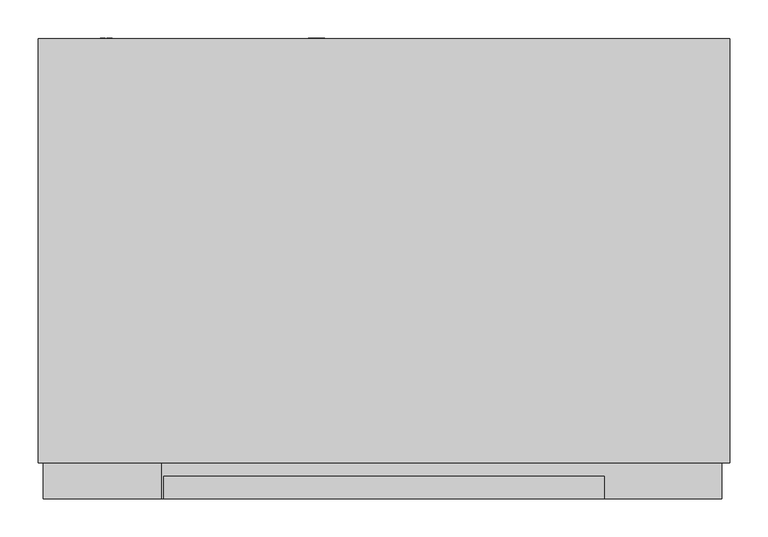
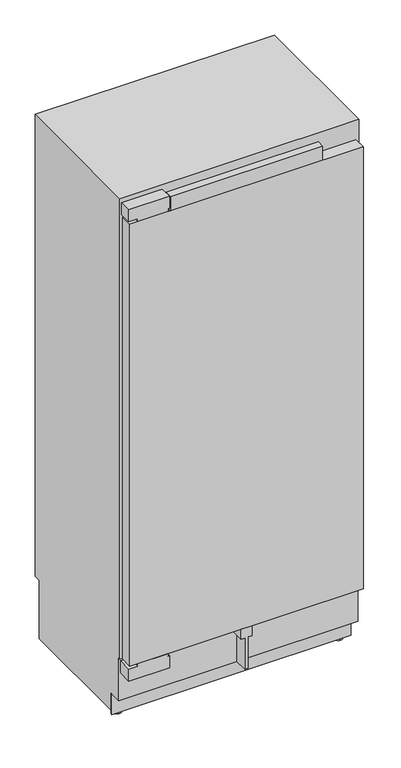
"""IFC4 building model written with IfcOpenShell, lengths in millimetres: proxy geometry, 11503390_USA_F2912Vi : 37291201_USA_11503390_F2912Vi."""

from ifc_helpers import new_model, si_unit, point, frame, frame_2d, origin, place, context, project, spatial, polyline, circle_curve, trimmed, segment, composite_curve, outline, extrude, source, transform, mapped, element, save
from ifc_brep_helpers import plane_surface, cylinder_surface, advanced_brep


def specialty_equipment_1636ad30(model_context):
    return source(origin(), model_context, "Body", "SolidModel", [
        extrude(outline(polyline([(-443.0, 47.0), (443.0, 47.0), (443.0, 0.0), (-443.0, 0.0), (-443.0, 47.0)])), frame((0.0, 0.0, 265.0), z_axis=(0.0, 0.0, 1.0), x_axis=(1.0, 0.0, 0.0)), (0.0, 0.0, 1.0), 1771.0),
        extrude(outline(polyline([(-289.0, 29.0), (289.0, 29.0), (289.0, 0.0), (-289.0, 0.0), (-289.0, 29.0)])), frame((0.0, 0.0, 2036.0), z_axis=(0.0, 0.0, 1.0), x_axis=(1.0, 0.0, 0.0)), (0.0, 0.0, 1.0), 56.0),
        extrude(outline(polyline([(265.0, 21.0), (265.0, 0.0), (265.0, -21.0), (224.0, -21.0), (224.0, -6.5), (99.0, -6.5), (99.0, 0.0), (99.0, 6.5), (224.0, 6.5), (224.0, 21.0), (265.0, 21.0)])), frame((0.0, 0.0, 0.0), z_axis=(0.0, 1.0, 0.0), x_axis=(0.0, 0.0, 1.0)), (0.0, 0.0, 1.0), 54.0),
        extrude(outline(polyline([(519.0, 1998.0), (519.0, 1791.0), (450.0, 1791.0), (422.0, 1867.0), (201.7448904, 1867.0), (157.0, 1939.0), (87.0, 1949.0), (87.0, 1998.0), (519.0, 1998.0)])), frame((-408.0, 0.0, 0.0), z_axis=(1.0, 0.0, 0.0), x_axis=(0.0, 1.0, 0.0)), (0.0, 0.0, 1.0), 816.0),
        extrude(outline(polyline([(196.9886114, 1875.0), (195.809433, 1875.0), (158.6921935, 1934.4), (159.8713719, 1934.4), (196.9886114, 1875.0)])), frame((-69.0, 0.0, 0.0), z_axis=(1.0, 0.0, 0.0), x_axis=(0.0, 1.0, 0.0)), (0.0, 0.0, 1.0), 138.0),
        extrude(outline(polyline([(46.0510837, -87.101717), (37.4134902, -89.1745179), (46.0453554, -91.6868463), (46.0453554, -93.5601414), (37.4089549, -96.0799633), (46.0493903, -98.1581876), (46.0493903, -99.4649805), (36.0005458, -96.7156324), (36.0005458, -95.372208), (44.8261022, -92.6342221), (35.9987467, -90.0620509), (35.9987287, -88.5451466), (46.0510837, -85.800191), (46.0510837, -87.101717)])), frame((0.0, 604.0, 0.0), z_axis=(0.0, 1.0, 0.0), x_axis=(0.0, 0.0, 1.0)), (0.0, 0.0, 1.0), 1.0),
        extrude(outline(polyline([(46.0485238, -78.7401503), (41.1363122, -78.7401503), (46.0468162, -83.884602), (46.0468162, -85.6328316), (41.9156889, -81.3260313), (36.000035, -85.8032231), (36.000035, -84.2795519), (41.0742849, -80.4391666), (39.4525334, -78.7395503), (35.9999292, -78.7395503), (35.9999292, -77.4795491), (46.0485238, -77.4795491), (46.0485238, -78.7401503)])), frame((0.0, 604.0, 0.0), z_axis=(0.0, 1.0, 0.0), x_axis=(0.0, 0.0, 1.0)), (0.0, 0.0, 1.0), 1.0),
        extrude(outline(composite_curve([segment(trimmed(circle_curve(frame_2d((41.0, -88.0)), 7.5), [point((33.5, -88.0))], [point((48.5, -88.0))], False, "CARTESIAN"), True, "CONTINUOUS"), segment(trimmed(circle_curve(frame_2d((41.0, -88.0)), 7.5), [point((48.5, -88.0))], [point((33.5, -88.0))], False, "CARTESIAN"), True, "CONTINUOUS")], self_intersect=False)), frame((0.0, 577.0, 0.0), z_axis=(0.0, 1.0, 0.0), x_axis=(0.0, 0.0, 1.0)), (0.0, 0.0, 1.0), 27.0),
        extrude(outline(polyline([(2095.0, -447.5), (2047.0, -447.5), (2047.0, -413.5), (2036.5, -413.5), (2036.5, -298.5), (2047.0, -298.5), (2047.0, -292.5), (2095.0, -292.5), (2095.0, -447.5)])), frame((0.0, 0.0, 0.0), z_axis=(0.0, 1.0, 0.0), x_axis=(0.0, 0.0, 1.0)), (0.0, 0.0, 1.0), 47.0),
        extrude(outline(polyline([(254.0, -447.5), (206.0, -447.5), (206.0, -292.5), (254.0, -292.5), (254.0, -298.5), (264.0, -298.5), (264.0, -413.5), (254.0, -413.5), (254.0, -447.5)])), frame((0.0, 0.0, 0.0), z_axis=(0.0, 1.0, 0.0), x_axis=(0.0, 0.0, 1.0)), (0.0, 0.0, 1.0), 54.0),
        extrude(outline(polyline([(99.0373308, -363.7645771), (97.7615342, -363.7645771), (97.7615342, -357.8195541), (94.7968516, -357.8195541), (94.7968516, -363.469579), (93.5246295, -363.469579), (93.5246295, -357.8415693), (90.2570046, -357.8415693), (90.2570046, -363.9619689), (88.9546219, -363.9619689), (88.9546219, -356.5443524), (99.0373308, -356.5443524), (99.0373308, -363.7645771)])), frame((0.0, 604.0, 0.0), z_axis=(0.0, 1.0, 0.0), x_axis=(0.0, 0.0, 1.0)), (0.0, 0.0, 1.0), 1.0),
        extrude(outline(polyline([(99.0458, -367.0619704), (90.2663944, -367.0619704), (90.2663944, -372.1145879), (89.0134802, -372.1145879), (89.0134802, -365.8423809), (99.0458, -365.8423809), (99.0458, -367.0619704)])), frame((0.0, 604.0, 0.0), z_axis=(0.0, 1.0, 0.0), x_axis=(0.0, 0.0, 1.0)), (0.0, 0.0, 1.0), 1.0),
        extrude(outline(composite_curve([segment(trimmed(circle_curve(frame_2d((94.0, -364.0)), 7.5), [point((86.5, -364.0))], [point((101.5, -364.0))], False, "CARTESIAN"), True, "CONTINUOUS"), segment(trimmed(circle_curve(frame_2d((94.0, -364.0)), 7.5), [point((101.5, -364.0))], [point((86.5, -364.0))], False, "CARTESIAN"), True, "CONTINUOUS")], self_intersect=False)), frame((0.0, 577.0, 0.0), z_axis=(0.0, 1.0, 0.0), x_axis=(0.0, 0.0, 1.0)), (0.0, 0.0, 1.0), 27.0),
        extrude(outline(polyline([(-454.0, 104.0), (454.0, 104.0), (454.0, 99.0), (-454.0, 99.0), (-454.0, 104.0)])), frame((0.0, 0.0, 14.0), z_axis=(0.0, 0.0, 1.0), x_axis=(1.0, 0.0, 0.0)), (0.0, 0.0, 1.0), 83.0),
        advanced_brep(
        [(-420.0, 139.0, 0.0), (-420.0, 109.0, 0.0), (-420.0, 139.0, 7.0), (-420.0, 109.0, 7.0), (-420.0, 128.7, 7.0), (-420.0, 119.3, 7.0), (-420.0, 128.7, 28.0), (-420.0, 119.3, 28.0)],
        [
            (0, 1, circle_curve(frame((-420.0, 124.0, 0.0), z_axis=(0.0, 0.0, -1.0), x_axis=(1.0, 0.0, 0.0)), 15.0)),
            (1, 0, circle_curve(frame((-420.0, 124.0, 0.0), z_axis=(0.0, 0.0, -1.0), x_axis=(1.0, 0.0, 0.0)), 15.0)),
            (2, 3, circle_curve(frame((-420.0, 124.0, 7.0), z_axis=(0.0, 0.0, 1.0), x_axis=(1.0, 0.0, 0.0)), 15.0)),
            (3, 2, circle_curve(frame((-420.0, 124.0, 7.0), z_axis=(0.0, 0.0, 1.0), x_axis=(1.0, 0.0, 0.0)), 15.0)),
            (4, 5, circle_curve(frame((-420.0, 124.0, 7.0), z_axis=(0.0, 0.0, -1.0), x_axis=(0.0, -1.0, 0.0)), 4.7)),
            (5, 4, circle_curve(frame((-420.0, 124.0, 7.0), z_axis=(0.0, 0.0, -1.0), x_axis=(0.0, -1.0, 0.0)), 4.7)),
            (0, 2),
            (3, 1),
            (6, 7, circle_curve(frame((-420.0, 124.0, 28.0), z_axis=(0.0, 0.0, 1.0), x_axis=(0.0, -1.0, 0.0)), 4.7)),
            (7, 6, circle_curve(frame((-420.0, 124.0, 28.0), z_axis=(0.0, 0.0, 1.0), x_axis=(0.0, -1.0, 0.0)), 4.7)),
            (7, 5),
            (4, 6),
        ],
        [
            plane_surface(frame((-405.0, 124.0, 0.0), z_axis=(0.0, 0.0, -1.0), x_axis=(0.0, -1.0, 0.0))),
            plane_surface(frame((-405.0, 124.0, 7.0), z_axis=(0.0, 0.0, 1.0), x_axis=(0.0, 1.0, 0.0))),
            cylinder_surface(frame((-420.0, 124.0, 7.0), z_axis=(0.0, 0.0, -1.0), x_axis=(1.0, 0.0, 0.0)), 15.0),
            plane_surface(frame((-420.0, 119.3, 28.0), z_axis=(0.0, 0.0, 1.0), x_axis=(1.0, 0.0, 0.0))),
            cylinder_surface(frame((-420.0, 124.0, 28.0), z_axis=(0.0, 0.0, -1.0), x_axis=(0.0, -1.0, 0.0)), 4.7),
        ],
        [
            (0, [[1, 2]]),
            (1, [[3, 4], [5, 6]]),
            (2, [[-1, 7, -4, 8]]),
            (2, [[-2, -8, -3, -7]]),
            (3, [[9, 10]]),
            (4, [[-10, 11, -5, 12]]),
            (4, [[-9, -12, -6, -11]]),
        ],
    ),
        advanced_brep(
        [(420.0, 139.0, 0.0), (420.0, 109.0, 0.0), (420.0, 139.0, 7.0), (420.0, 109.0, 7.0), (420.0, 128.7, 7.0), (420.0, 119.3, 7.0), (420.0, 128.7, 28.0), (420.0, 119.3, 28.0)],
        [
            (0, 1, circle_curve(frame((420.0, 124.0, 0.0), z_axis=(0.0, 0.0, -1.0), x_axis=(1.0, 0.0, 0.0)), 15.0)),
            (1, 0, circle_curve(frame((420.0, 124.0, 0.0), z_axis=(0.0, 0.0, -1.0), x_axis=(1.0, 0.0, 0.0)), 15.0)),
            (2, 3, circle_curve(frame((420.0, 124.0, 7.0), z_axis=(0.0, 0.0, 1.0), x_axis=(1.0, 0.0, 0.0)), 15.0)),
            (3, 2, circle_curve(frame((420.0, 124.0, 7.0), z_axis=(0.0, 0.0, 1.0), x_axis=(1.0, 0.0, 0.0)), 15.0)),
            (4, 5, circle_curve(frame((420.0, 124.0, 7.0), z_axis=(0.0, 0.0, -1.0), x_axis=(0.0, -1.0, 0.0)), 4.7)),
            (5, 4, circle_curve(frame((420.0, 124.0, 7.0), z_axis=(0.0, 0.0, -1.0), x_axis=(0.0, -1.0, 0.0)), 4.7)),
            (0, 2),
            (3, 1),
            (6, 7, circle_curve(frame((420.0, 124.0, 28.0), z_axis=(0.0, 0.0, 1.0), x_axis=(0.0, -1.0, 0.0)), 4.7)),
            (7, 6, circle_curve(frame((420.0, 124.0, 28.0), z_axis=(0.0, 0.0, 1.0), x_axis=(0.0, -1.0, 0.0)), 4.7)),
            (7, 5),
            (4, 6),
        ],
        [
            plane_surface(frame((-405.0, 124.0, 0.0), z_axis=(0.0, 0.0, -1.0), x_axis=(0.0, -1.0, 0.0))),
            plane_surface(frame((-405.0, 124.0, 7.0), z_axis=(0.0, 0.0, 1.0), x_axis=(0.0, 1.0, 0.0))),
            cylinder_surface(frame((420.0, 124.0, 7.0), z_axis=(0.0, 0.0, -1.0), x_axis=(1.0, 0.0, 0.0)), 15.0),
            plane_surface(frame((-420.0, 119.3, 28.0), z_axis=(0.0, 0.0, 1.0), x_axis=(1.0, 0.0, 0.0))),
            cylinder_surface(frame((420.0, 124.0, 28.0), z_axis=(0.0, 0.0, -1.0), x_axis=(0.0, -1.0, 0.0)), 4.7),
        ],
        [
            (0, [[1, 2]]),
            (1, [[3, 4], [5, 6]]),
            (2, [[-1, 7, -4, 8]]),
            (2, [[-2, -8, -3, -7]]),
            (3, [[9, 10]]),
            (4, [[-10, 11, -5, 12]]),
            (4, [[-9, -12, -6, -11]]),
        ],
    ),
        advanced_brep(
        [(454.0, 47.0, 2114.0), (454.0, 47.0, 267.0), (454.0, 54.0, 267.0), (454.0, 54.0, 97.0), (454.0, 104.0, 97.0), (454.0, 104.0, 28.0), (454.0, 577.0, 28.0), (454.0, 577.0, 263.0), (454.0, 604.0, 263.0), (454.0, 604.0, 2114.0), (-454.0, 47.0, 2114.0), (-454.0, 604.0, 2114.0), (-454.0, 604.0, 263.0), (-454.0, 577.0, 263.0), (-454.0, 577.0, 28.0), (-454.0, 104.0, 28.0), (-454.0, 104.0, 97.0), (-454.0, 54.0, 97.0), (-454.0, 54.0, 267.0), (-454.0, 47.0, 267.0), (394.0, 577.0, 28.0), (394.0, 577.0, 14.0), (-394.0, 577.0, 14.0), (-394.0, 577.0, 28.0), (394.0, 104.0, 14.0), (-394.0, 104.0, 14.0), (-394.0, 104.0, 28.0), (394.0, 104.0, 28.0), (408.0, 47.0, 1998.0), (408.0, 47.0, 343.0), (-408.0, 47.0, 343.0), (-408.0, 47.0, 1998.0), (408.0, 519.0, 1998.0), (-408.0, 519.0, 1998.0), (-408.0, 519.0, 343.0), (408.0, 519.0, 343.0), (-412.5, 202.8193473, 28.0), (-431.5, 202.8193473, 28.0), (-431.5, 153.1806527, 28.0), (-412.5, 153.1806527, 28.0), (-432.0, 525.8193473, 28.0), (-432.0, 476.1806527, 28.0), (-416.0, 476.1806527, 28.0), (-416.0, 525.8193473, 28.0), (431.5, 153.1806527, 28.0), (431.5, 202.8193473, 28.0), (412.5, 202.8193473, 28.0), (412.5, 153.1806527, 28.0), (416.0, 525.8193473, 28.0), (416.0, 476.1806527, 28.0), (432.0, 476.1806527, 28.0), (432.0, 525.8193473, 28.0), (-412.5, 203.0, 25.0), (-412.5, 153.0, 25.0), (-431.5, 153.0, 25.0), (-431.5, 203.0, 25.0), (-412.5, 178.0, 25.0), (-431.5, 178.0, 25.0), (431.5, 178.0, 25.0), (431.5, 153.0, 25.0), (431.5, 203.0, 25.0), (412.5, 203.0, 25.0), (412.5, 153.0, 25.0), (412.5, 178.0, 25.0), (-432.0, 526.0, 25.0), (-432.0, 476.0, 25.0), (-432.0, 501.0, 25.0), (-416.0, 526.0, 25.0), (-416.0, 476.0, 25.0), (-416.0, 501.0, 25.0), (416.0, 526.0, 25.0), (416.0, 476.0, 25.0), (416.0, 501.0, 25.0), (432.0, 526.0, 25.0), (432.0, 476.0, 25.0), (432.0, 501.0, 25.0)],
        [
            (0, 1),
            (1, 2),
            (2, 3),
            (3, 4),
            (4, 5),
            (5, 6),
            (6, 7),
            (7, 8),
            (8, 9),
            (9, 0),
            (10, 11),
            (11, 12),
            (12, 13),
            (13, 14),
            (14, 15),
            (15, 16),
            (16, 17),
            (17, 18),
            (18, 19),
            (19, 10),
            (9, 11),
            (10, 0),
            (8, 12),
            (7, 13),
            (6, 20),
            (20, 21),
            (21, 22),
            (22, 23),
            (23, 14),
            (21, 24),
            (24, 25),
            (25, 22),
            (4, 16),
            (15, 26),
            (26, 25),
            (24, 27),
            (27, 5),
            (3, 17),
            (2, 18),
            (1, 19),
            (28, 29),
            (29, 30),
            (30, 31),
            (31, 28),
            (32, 33),
            (33, 34),
            (34, 35),
            (35, 32),
            (35, 29),
            (28, 32),
            (34, 30),
            (33, 31),
            (23, 26),
            (36, 37),
            (37, 38),
            (38, 39),
            (39, 36),
            (40, 41),
            (41, 42),
            (42, 43),
            (43, 40),
            (27, 20),
            (44, 45),
            (45, 46),
            (46, 47),
            (47, 44),
            (48, 49),
            (49, 50),
            (50, 51),
            (51, 48),
            (52, 53, circle_curve(frame((-412.5, 178.0, 25.0), z_axis=(-1.0, 0.0, 0.0), x_axis=(0.0, -1.0, 0.0)), 25.0)),
            (53, 54),
            (54, 55, circle_curve(frame((-431.5, 178.0, 25.0), z_axis=(1.0, 0.0, 0.0), x_axis=(0.0, -1.0, 0.0)), 25.0)),
            (55, 52),
            (53, 39, circle_curve(frame((-412.5, 178.0, 25.0), z_axis=(-1.0, 0.0, 0.0), x_axis=(0.0, -1.0, 0.0)), 25.0)),
            (38, 54, circle_curve(frame((-431.5, 178.0, 25.0), z_axis=(1.0, 0.0, 0.0), x_axis=(0.0, -1.0, 0.0)), 25.0)),
            (55, 37, circle_curve(frame((-431.5, 178.0, 25.0), z_axis=(1.0, 0.0, 0.0), x_axis=(0.0, -1.0, 0.0)), 25.0)),
            (36, 52, circle_curve(frame((-412.5, 178.0, 25.0), z_axis=(-1.0, 0.0, 0.0), x_axis=(0.0, -1.0, 0.0)), 25.0)),
            (52, 56),
            (56, 53),
            (54, 57),
            (57, 55),
            (58, 59),
            (59, 60, circle_curve(frame((431.5, 178.0, 25.0), z_axis=(1.0, 0.0, 0.0), x_axis=(0.0, -1.0, 0.0)), 25.0)),
            (60, 58),
            (60, 45, circle_curve(frame((431.5, 178.0, 25.0), z_axis=(1.0, 0.0, 0.0), x_axis=(0.0, -1.0, 0.0)), 25.0)),
            (44, 59, circle_curve(frame((431.5, 178.0, 25.0), z_axis=(1.0, 0.0, 0.0), x_axis=(0.0, -1.0, 0.0)), 25.0)),
            (61, 62, circle_curve(frame((412.5, 178.0, 25.0), z_axis=(-1.0, 0.0, 0.0), x_axis=(0.0, -1.0, 0.0)), 25.0)),
            (62, 63),
            (63, 61),
            (62, 47, circle_curve(frame((412.5, 178.0, 25.0), z_axis=(-1.0, 0.0, 0.0), x_axis=(0.0, -1.0, 0.0)), 25.0)),
            (46, 61, circle_curve(frame((412.5, 178.0, 25.0), z_axis=(-1.0, 0.0, 0.0), x_axis=(0.0, -1.0, 0.0)), 25.0)),
            (64, 65, circle_curve(frame((-432.0, 501.0, 25.0), z_axis=(-1.0, 0.0, 0.0), x_axis=(0.0, -1.0, 0.0)), 25.0)),
            (65, 66),
            (66, 64),
            (65, 41, circle_curve(frame((-432.0, 501.0, 25.0), z_axis=(-1.0, 0.0, 0.0), x_axis=(0.0, -1.0, 0.0)), 25.0)),
            (40, 64, circle_curve(frame((-432.0, 501.0, 25.0), z_axis=(-1.0, 0.0, 0.0), x_axis=(0.0, -1.0, 0.0)), 25.0)),
            (64, 67),
            (67, 68, circle_curve(frame((-416.0, 501.0, 25.0), z_axis=(-1.0, 0.0, 0.0), x_axis=(0.0, -1.0, 0.0)), 25.0)),
            (68, 65),
            (43, 67, circle_curve(frame((-416.0, 501.0, 25.0), z_axis=(-1.0, 0.0, 0.0), x_axis=(0.0, -1.0, 0.0)), 25.0)),
            (68, 42, circle_curve(frame((-416.0, 501.0, 25.0), z_axis=(-1.0, 0.0, 0.0), x_axis=(0.0, -1.0, 0.0)), 25.0)),
            (67, 69),
            (69, 68),
            (70, 71, circle_curve(frame((416.0, 501.0, 25.0), z_axis=(-1.0, 0.0, 0.0), x_axis=(0.0, -1.0, 0.0)), 25.0)),
            (71, 72),
            (72, 70),
            (71, 49, circle_curve(frame((416.0, 501.0, 25.0), z_axis=(-1.0, 0.0, 0.0), x_axis=(0.0, -1.0, 0.0)), 25.0)),
            (48, 70, circle_curve(frame((416.0, 501.0, 25.0), z_axis=(-1.0, 0.0, 0.0), x_axis=(0.0, -1.0, 0.0)), 25.0)),
            (70, 73),
            (73, 74, circle_curve(frame((432.0, 501.0, 25.0), z_axis=(-1.0, 0.0, 0.0), x_axis=(0.0, -1.0, 0.0)), 25.0)),
            (74, 71),
            (51, 73, circle_curve(frame((432.0, 501.0, 25.0), z_axis=(-1.0, 0.0, 0.0), x_axis=(0.0, -1.0, 0.0)), 25.0)),
            (74, 50, circle_curve(frame((432.0, 501.0, 25.0), z_axis=(-1.0, 0.0, 0.0), x_axis=(0.0, -1.0, 0.0)), 25.0)),
            (73, 75),
            (75, 74),
            (59, 62),
            (61, 60),
        ],
        [
            plane_surface(frame((454.0, 604.0, 2114.0), z_axis=(1.0, 0.0, 0.0), x_axis=(0.0, -1.0, 0.0))),
            plane_surface(frame((-454.0, 604.0, 2114.0), z_axis=(-1.0, 0.0, 0.0), x_axis=(0.0, 1.0, 0.0))),
            plane_surface(frame((-454.0, 47.0, 2114.0), z_axis=(0.0, 0.0, 1.0), x_axis=(1.0, 0.0, 0.0))),
            plane_surface(frame((-454.0, 604.0, 2114.0), z_axis=(0.0, 1.0, 0.0), x_axis=(1.0, 0.0, 0.0))),
            plane_surface(frame((-454.0, 604.0, 263.0), z_axis=(0.0, 0.0, -1.0), x_axis=(1.0, 0.0, 0.0))),
            plane_surface(frame((-454.0, 577.0, 263.0), z_axis=(0.0, 1.0, 0.0), x_axis=(1.0, 0.0, 0.0))),
            plane_surface(frame((-454.0, 577.0, 14.0), z_axis=(0.0, 0.0, -1.0), x_axis=(1.0, 0.0, 0.0))),
            plane_surface(frame((-454.0, 104.0, 14.0), z_axis=(0.0, -1.0, 0.0), x_axis=(1.0, 0.0, 0.0))),
            plane_surface(frame((-454.0, 104.0, 97.0), z_axis=(0.0, 0.0, -1.0), x_axis=(1.0, 0.0, 0.0))),
            plane_surface(frame((-454.0, 54.0, 97.0), z_axis=(0.0, -1.0, 0.0), x_axis=(1.0, 0.0, 0.0))),
            plane_surface(frame((-454.0, 54.0, 267.0), z_axis=(0.0, 0.0, -1.0), x_axis=(1.0, 0.0, 0.0))),
            plane_surface(frame((-454.0, 47.0, 267.0), z_axis=(0.0, -1.0, 0.0), x_axis=(1.0, 0.0, 0.0))),
            plane_surface(frame((408.0, 519.0, 1998.0), z_axis=(0.0, -1.0, 0.0), x_axis=(0.0, 0.0, -1.0))),
            plane_surface(frame((408.0, 519.0, 1998.0), z_axis=(-1.0, 0.0, 0.0), x_axis=(0.0, -1.0, 0.0))),
            plane_surface(frame((408.0, 519.0, 343.0), z_axis=(0.0, 0.0, 1.0), x_axis=(0.0, -1.0, 0.0))),
            plane_surface(frame((-408.0, 519.0, 343.0), z_axis=(1.0, 0.0, 0.0), x_axis=(0.0, -1.0, 0.0))),
            plane_surface(frame((-408.0, 519.0, 1998.0), z_axis=(0.0, 0.0, -1.0), x_axis=(0.0, -1.0, 0.0))),
            plane_surface(frame((-454.0, 604.0, 28.0), z_axis=(0.0, 0.0, -1.0), x_axis=(-1.0, 0.0, 0.0))),
            plane_surface(frame((-394.0, 104.0, 28.0), z_axis=(-1.0, 0.0, 0.0), x_axis=(0.0, 0.0, -1.0))),
            plane_surface(frame((394.0, 604.0, 28.0), z_axis=(1.0, 0.0, 0.0), x_axis=(0.0, 0.0, -1.0))),
            cylinder_surface(frame((-546.6988927, 178.0, 25.0), z_axis=(1.0, 0.0, 0.0), x_axis=(0.0, -1.0, 0.0)), 25.0),
            plane_surface(frame((-412.5, 178.0, 25.0), z_axis=(1.0, 0.0, 0.0), x_axis=(0.0, -1.0, 0.0))),
            plane_surface(frame((-431.5, 178.0, 25.0), z_axis=(-1.0, 0.0, 0.0), x_axis=(0.0, -1.0, 0.0))),
            plane_surface(frame((431.5, 178.0, 25.0), z_axis=(1.0, 0.0, 0.0), x_axis=(0.0, -1.0, 0.0))),
            plane_surface(frame((412.5, 178.0, 25.0), z_axis=(-1.0, 0.0, 0.0), x_axis=(0.0, -1.0, 0.0))),
            plane_surface(frame((-432.0, 501.0, 25.0), z_axis=(-1.0, 0.0, 0.0), x_axis=(0.0, -1.0, 0.0))),
            cylinder_surface(frame((-546.6988927, 501.0, 25.0), z_axis=(1.0, 0.0, 0.0), x_axis=(0.0, -1.0, 0.0)), 25.0),
            plane_surface(frame((-416.0, 501.0, 25.0), z_axis=(1.0, 0.0, 0.0), x_axis=(0.0, -1.0, 0.0))),
            plane_surface(frame((416.0, 501.0, 25.0), z_axis=(-1.0, 0.0, 0.0), x_axis=(0.0, -1.0, 0.0))),
            plane_surface(frame((432.0, 501.0, 25.0), z_axis=(1.0, 0.0, 0.0), x_axis=(0.0, -1.0, 0.0))),
        ],
        [
            (0, [[1, 2, 3, 4, 5, 6, 7, 8, 9, 10]]),
            (1, [[11, 12, 13, 14, 15, 16, 17, 18, 19, 20]]),
            (2, [[-10, 21, -11, 22]]),
            (3, [[-9, 23, -12, -21]]),
            (4, [[-8, 24, -13, -23]]),
            (5, [[-24, -7, 25, 26, 27, 28, 29, -14]]),
            (6, [[-27, 30, 31, 32]]),
            (7, [[33, -16, 34, 35, -31, 36, 37, -5]]),
            (8, [[-4, 38, -17, -33]]),
            (9, [[-3, 39, -18, -38]]),
            (10, [[-2, 40, -19, -39]]),
            (11, [[-1, -22, -20, -40], [41, 42, 43, 44]]),
            (12, [[45, 46, 47, 48]]),
            (13, [[-48, 49, -41, 50]]),
            (14, [[-47, 51, -42, -49]]),
            (15, [[-46, 52, -43, -51]]),
            (16, [[-45, -50, -44, -52]]),
            (17, [[53, -34, -15, -29], [54, 55, 56, 57], [58, 59, 60, 61]]),
            (17, [[62, -25, -6, -37], [63, 64, 65, 66], [67, 68, 69, 70]]),
            (18, [[-53, -28, -32, -35]]),
            (19, [[-62, -36, -30, -26]]),
            (20, [[71, 72, 73, 74]]),
            (20, [[-72, 75, -56, 76]]),
            (20, [[-74, 77, -54, 78]]),
            (21, [[-71, 79, 80]]),
            (21, [[-80, -79, -78, -57, -75]]),
            (22, [[-73, 81, 82]]),
            (22, [[-81, -76, -55, -77, -82]]),
            (23, [[83, 84, 85]]),
            (23, [[-83, -85, 86, -63, 87]]),
            (24, [[88, 89, 90]]),
            (24, [[-89, 91, -65, 92, -90]]),
            (25, [[93, 94, 95]]),
            (25, [[-94, 96, -58, 97, -95]]),
            (26, [[-93, 98, 99, 100]]),
            (26, [[-98, -97, -61, 101]]),
            (26, [[-100, 102, -59, -96]]),
            (27, [[-99, 103, 104]]),
            (27, [[-104, -103, -101, -60, -102]]),
            (28, [[105, 106, 107]]),
            (28, [[-106, 108, -67, 109, -107]]),
            (26, [[-105, 110, 111, 112]]),
            (26, [[-110, -109, -70, 113]]),
            (26, [[-112, 114, -68, -108]]),
            (29, [[-111, 115, 116]]),
            (29, [[-116, -115, -113, -69, -114]]),
            (20, [[-84, 117, -88, 118]]),
            (20, [[-117, -87, -66, -91]]),
            (20, [[-118, -92, -64, -86]]),
        ],
    ),
    ])


if __name__ == "__main__":
    model = new_model("IFC4")
    model_context = context("Model", 3, world=origin())
    ifc_project = project(units=[si_unit("LENGTHUNIT", "METRE", prefix="MILLI")], contexts=[model_context])
    site = spatial("IfcSite", under=ifc_project)
    building = spatial("IfcBuilding", under=site)
    placement = place(None, origin())
    specialty_equipment_shape = specialty_equipment_1636ad30(model_context)
    element("IfcBuildingElementProxy", 1, Name="11503390_USA_F2912Vi : 37291201_USA_11503390_F2912Vi", ObjectType="11503390_USA_F2912Vi : 37291201_USA_11503390_F2912Vi", at=placement, inside=building, context=model_context, shape_type="MappedRepresentation", body=[
        mapped(specialty_equipment_shape, transform((0.0, 0.0, 0.0), x_axis=(1.0, 0.0, 0.0), y_axis=(0.0, 1.0, 0.0), z_axis=(0.0, 0.0, 1.0))),
    ])
    save(model, "model.ifc")
